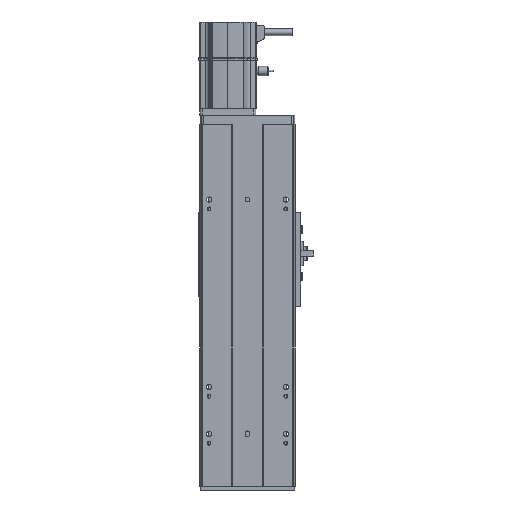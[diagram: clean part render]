
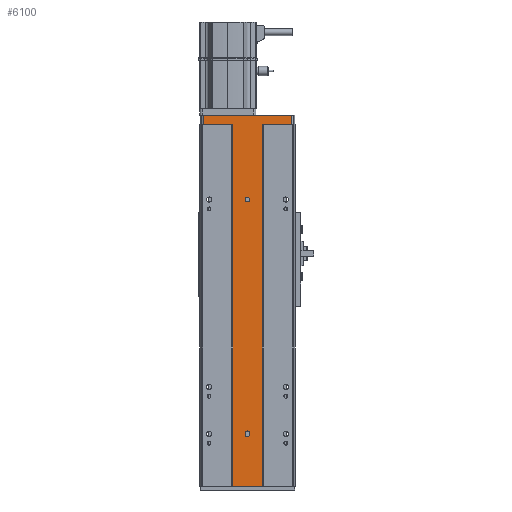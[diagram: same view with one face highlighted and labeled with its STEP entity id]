
A CAD part, front view. The second image highlights one B-rep face of the part: STEP entity #6100.
In plain terms, the highlighted planar face has unit normal (0, -1, 0).
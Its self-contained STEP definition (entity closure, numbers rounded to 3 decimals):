
#44 = CARTESIAN_POINT ( 'NONE',  ( -2.5, 0., -222.5 ) ) ;
#237 = CARTESIAN_POINT ( 'NONE',  ( 47.001, 0., 107. ) ) ;
#569 = FACE_BOUND ( 'NONE', #11672, .T. ) ;
#1000 = VECTOR ( 'NONE', #6990, 1000. ) ;
#1002 = LINE ( 'NONE', #7175, #20920 ) ;
#1192 = ORIENTED_EDGE ( 'NONE', *, *, #6763, .F. ) ;
#1261 = DIRECTION ( 'NONE',  ( 0., 0., -1. ) ) ;
#1311 = VERTEX_POINT ( 'NONE', #16002 ) ;
#1552 = DIRECTION ( 'NONE',  ( 1., 0., 0. ) ) ;
#1679 = CIRCLE ( 'NONE', #11892, 2.5 ) ;
#1711 = AXIS2_PLACEMENT_3D ( 'NONE', #15673, #19424, #8254 ) ;
#2186 = DIRECTION ( 'NONE',  ( 0., 0., -1. ) ) ;
#2226 = CARTESIAN_POINT ( 'NONE',  ( -2.5, 0., -223.5 ) ) ;
#2355 = VERTEX_POINT ( 'NONE', #7323 ) ;
#2799 = AXIS2_PLACEMENT_3D ( 'NONE', #2864, #15942, #4771 ) ;
#2864 = CARTESIAN_POINT ( 'NONE',  ( 0., 0., -223.5 ) ) ;
#3038 = LINE ( 'NONE', #20959, #10651 ) ;
#3158 = EDGE_CURVE ( 'NONE', #2355, #13549, #9564, .T. ) ;
#3334 = EDGE_CURVE ( 'NONE', #10016, #14000, #1002, .T. ) ;
#3674 = ORIENTED_EDGE ( 'NONE', *, *, #21485, .F. ) ;
#3793 = CARTESIAN_POINT ( 'NONE',  ( 0., 0., 27. ) ) ;
#3888 = VECTOR ( 'NONE', #5520, 1000. ) ;
#4771 = DIRECTION ( 'NONE',  ( 0., 0., -1. ) ) ;
#4904 = ORIENTED_EDGE ( 'NONE', *, *, #15848, .F. ) ;
#4978 = ORIENTED_EDGE ( 'NONE', *, *, #5243, .F. ) ;
#5017 = ORIENTED_EDGE ( 'NONE', *, *, #7710, .F. ) ;
#5127 = ORIENTED_EDGE ( 'NONE', *, *, #8697, .F. ) ;
#5243 = EDGE_CURVE ( 'NONE', #17267, #21984, #13200, .T. ) ;
#5250 = CARTESIAN_POINT ( 'NONE',  ( 0., 0., -222.5 ) ) ;
#5520 = DIRECTION ( 'NONE',  ( 0., 0., 1. ) ) ;
#5680 = DIRECTION ( 'NONE',  ( 0., 0., -1. ) ) ;
#5722 = CARTESIAN_POINT ( 'NONE',  ( -47.001, 0., 107. ) ) ;
#6100 = ADVANCED_FACE ( 'NONE', ( #19911, #569, #20494 ), #10067, .T. ) ;
#6763 = EDGE_CURVE ( 'NONE', #23376, #12503, #12325, .T. ) ;
#6990 = DIRECTION ( 'NONE',  ( 0., 0., -1. ) ) ;
#7137 = DIRECTION ( 'NONE',  ( 0., 0., -1. ) ) ;
#7175 = CARTESIAN_POINT ( 'NONE',  ( 15.793, 0., -279. ) ) ;
#7323 = CARTESIAN_POINT ( 'NONE',  ( -15.793, 0., 107. ) ) ;
#7337 = VECTOR ( 'NONE', #1552, 1000. ) ;
#7496 = CIRCLE ( 'NONE', #23733, 2.5 ) ;
#7710 = EDGE_CURVE ( 'NONE', #1311, #23376, #12848, .T. ) ;
#8153 = EDGE_CURVE ( 'NONE', #18513, #17267, #23331, .T. ) ;
#8254 = DIRECTION ( 'NONE',  ( 0., 0., -1. ) ) ;
#8400 = ORIENTED_EDGE ( 'NONE', *, *, #8153, .F. ) ;
#8697 = EDGE_CURVE ( 'NONE', #10835, #18513, #1679, .T. ) ;
#9365 = CARTESIAN_POINT ( 'NONE',  ( 0., 0., 24.5 ) ) ;
#9551 = ORIENTED_EDGE ( 'NONE', *, *, #22540, .T. ) ;
#9564 = LINE ( 'NONE', #12135, #23824 ) ;
#9676 = CARTESIAN_POINT ( 'NONE',  ( 47.001, 0., 107. ) ) ;
#9806 = DIRECTION ( 'NONE',  ( 0., 0., -1. ) ) ;
#9903 = DIRECTION ( 'NONE',  ( 0., -1., 0. ) ) ;
#10016 = VERTEX_POINT ( 'NONE', #20880 ) ;
#10067 = PLANE ( 'NONE',  #1711 ) ;
#10651 = VECTOR ( 'NONE', #9806, 1000. ) ;
#10761 = VERTEX_POINT ( 'NONE', #44 ) ;
#10835 = VERTEX_POINT ( 'NONE', #2226 ) ;
#10857 = CARTESIAN_POINT ( 'NONE',  ( -15.793, 0., -279. ) ) ;
#10933 = CARTESIAN_POINT ( 'NONE',  ( -1.986, 0., 117. ) ) ;
#10981 = ORIENTED_EDGE ( 'NONE', *, *, #15677, .T. ) ;
#11014 = DIRECTION ( 'NONE',  ( 0., 0., 1. ) ) ;
#11023 = LINE ( 'NONE', #12595, #1000 ) ;
#11166 = CARTESIAN_POINT ( 'NONE',  ( 2.5, 0., 0. ) ) ;
#11672 = EDGE_LOOP ( 'NONE', ( #4904, #14092 ) ) ;
#11839 = VERTEX_POINT ( 'NONE', #24246 ) ;
#11892 = AXIS2_PLACEMENT_3D ( 'NONE', #23643, #12493, #1261 ) ;
#12087 = VECTOR ( 'NONE', #2186, 1000. ) ;
#12135 = CARTESIAN_POINT ( 'NONE',  ( 0., 0., 107. ) ) ;
#12218 = DIRECTION ( 'NONE',  ( -1., 0., 0. ) ) ;
#12325 = LINE ( 'NONE', #9676, #16126 ) ;
#12362 = VECTOR ( 'NONE', #21568, 1000. ) ;
#12493 = DIRECTION ( 'NONE',  ( 0., -1., 0. ) ) ;
#12503 = VERTEX_POINT ( 'NONE', #237 ) ;
#12548 = EDGE_CURVE ( 'NONE', #22515, #15843, #17076, .T. ) ;
#12595 = CARTESIAN_POINT ( 'NONE',  ( -47.001, 0., 0. ) ) ;
#12848 = LINE ( 'NONE', #10933, #7337 ) ;
#12922 = ORIENTED_EDGE ( 'NONE', *, *, #3334, .F. ) ;
#13200 = LINE ( 'NONE', #11166, #3888 ) ;
#13549 = VERTEX_POINT ( 'NONE', #5722 ) ;
#14000 = VERTEX_POINT ( 'NONE', #10857 ) ;
#14092 = ORIENTED_EDGE ( 'NONE', *, *, #12548, .F. ) ;
#14711 = CARTESIAN_POINT ( 'NONE',  ( 15.793, 0., 0. ) ) ;
#14754 = CARTESIAN_POINT ( 'NONE',  ( 2.5, 0., -222.5 ) ) ;
#14891 = ORIENTED_EDGE ( 'NONE', *, *, #22182, .T. ) ;
#15399 = CARTESIAN_POINT ( 'NONE',  ( 0., 0., -226. ) ) ;
#15673 = CARTESIAN_POINT ( 'NONE',  ( 15.793, 0., 0. ) ) ;
#15677 = EDGE_CURVE ( 'NONE', #1311, #13549, #11023, .T. ) ;
#15726 = CARTESIAN_POINT ( 'NONE',  ( -2.5, 0., 0. ) ) ;
#15843 = VERTEX_POINT ( 'NONE', #9365 ) ;
#15848 = EDGE_CURVE ( 'NONE', #15843, #22515, #7496, .T. ) ;
#15942 = DIRECTION ( 'NONE',  ( 0., -1., 0. ) ) ;
#16002 = CARTESIAN_POINT ( 'NONE',  ( -47.001, 0., 117. ) ) ;
#16126 = VECTOR ( 'NONE', #18960, 1000. ) ;
#16490 = ORIENTED_EDGE ( 'NONE', *, *, #21008, .T. ) ;
#16671 = CARTESIAN_POINT ( 'NONE',  ( 2.5, 0., -223.5 ) ) ;
#16865 = DIRECTION ( 'NONE',  ( 0., -1., 0. ) ) ;
#17076 = CIRCLE ( 'NONE', #20256, 2.5 ) ;
#17079 = LINE ( 'NONE', #15726, #12087 ) ;
#17267 = VERTEX_POINT ( 'NONE', #16671 ) ;
#17348 = LINE ( 'NONE', #19715, #12362 ) ;
#17919 = EDGE_CURVE ( 'NONE', #10761, #10835, #17079, .T. ) ;
#18325 = DIRECTION ( 'NONE',  ( 0., -1., 0. ) ) ;
#18354 = CARTESIAN_POINT ( 'NONE',  ( 0., 0., 29.5 ) ) ;
#18513 = VERTEX_POINT ( 'NONE', #15399 ) ;
#18592 = VECTOR ( 'NONE', #11014, 1000. ) ;
#18960 = DIRECTION ( 'NONE',  ( 0., 0., -1. ) ) ;
#19161 = LINE ( 'NONE', #14711, #18592 ) ;
#19424 = DIRECTION ( 'NONE',  ( 0., -1., 0. ) ) ;
#19715 = CARTESIAN_POINT ( 'NONE',  ( 15.793, 0., 107. ) ) ;
#19911 = FACE_BOUND ( 'NONE', #20066, .T. ) ;
#20066 = EDGE_LOOP ( 'NONE', ( #3674, #4978, #8400, #5127, #21187 ) ) ;
#20256 = AXIS2_PLACEMENT_3D ( 'NONE', #21043, #9903, #22909 ) ;
#20494 = FACE_OUTER_BOUND ( 'NONE', #24278, .T. ) ;
#20880 = CARTESIAN_POINT ( 'NONE',  ( 15.793, 0., -279. ) ) ;
#20920 = VECTOR ( 'NONE', #22080, 1000. ) ;
#20959 = CARTESIAN_POINT ( 'NONE',  ( -15.793, 0., 0. ) ) ;
#21008 = EDGE_CURVE ( 'NONE', #10016, #11839, #19161, .T. ) ;
#21043 = CARTESIAN_POINT ( 'NONE',  ( 0., 0., 27. ) ) ;
#21187 = ORIENTED_EDGE ( 'NONE', *, *, #17919, .F. ) ;
#21485 = EDGE_CURVE ( 'NONE', #21984, #10761, #24079, .T. ) ;
#21568 = DIRECTION ( 'NONE',  ( 1., 0., 0. ) ) ;
#21984 = VERTEX_POINT ( 'NONE', #14754 ) ;
#22080 = DIRECTION ( 'NONE',  ( -1., 0., 0. ) ) ;
#22182 = EDGE_CURVE ( 'NONE', #2355, #14000, #3038, .T. ) ;
#22515 = VERTEX_POINT ( 'NONE', #18354 ) ;
#22540 = EDGE_CURVE ( 'NONE', #11839, #12503, #17348, .T. ) ;
#22563 = CARTESIAN_POINT ( 'NONE',  ( 47.001, 0., 117. ) ) ;
#22909 = DIRECTION ( 'NONE',  ( 0., 0., -1. ) ) ;
#23282 = AXIS2_PLACEMENT_3D ( 'NONE', #5250, #18325, #7137 ) ;
#23331 = CIRCLE ( 'NONE', #2799, 2.5 ) ;
#23338 = ORIENTED_EDGE ( 'NONE', *, *, #3158, .F. ) ;
#23376 = VERTEX_POINT ( 'NONE', #22563 ) ;
#23643 = CARTESIAN_POINT ( 'NONE',  ( 0., 0., -223.5 ) ) ;
#23733 = AXIS2_PLACEMENT_3D ( 'NONE', #3793, #16865, #5680 ) ;
#23824 = VECTOR ( 'NONE', #12218, 1000. ) ;
#24079 = CIRCLE ( 'NONE', #23282, 2.5 ) ;
#24246 = CARTESIAN_POINT ( 'NONE',  ( 15.793, 0., 107. ) ) ;
#24278 = EDGE_LOOP ( 'NONE', ( #14891, #12922, #16490, #9551, #1192, #5017, #10981, #23338 ) ) ;
